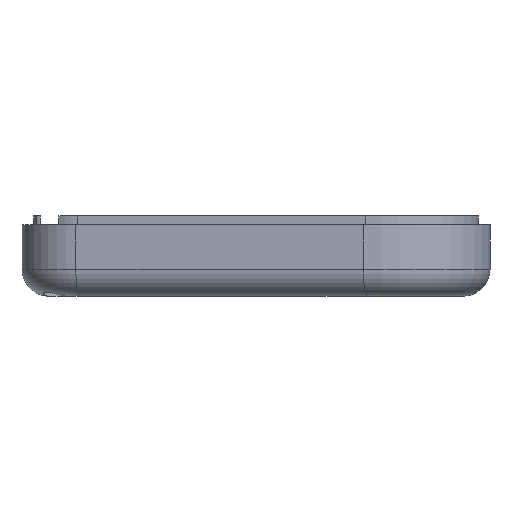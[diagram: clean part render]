
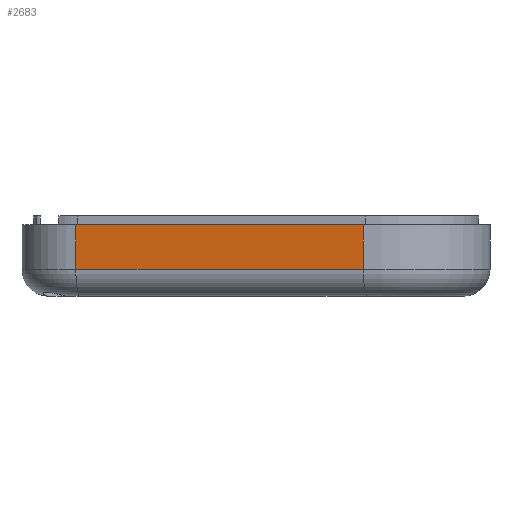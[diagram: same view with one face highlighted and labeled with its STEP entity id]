
A CAD part, left-side view. The second image highlights one B-rep face of the part: STEP entity #2683.
In plain terms, the highlighted planar face has unit normal (-0.991, 0.137, 0).
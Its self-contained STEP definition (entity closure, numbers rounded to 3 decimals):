
#165 = VERTEX_POINT('',#166);
#166 = CARTESIAN_POINT('',(-71.869,31.913,6.));
#173 = EDGE_CURVE('',#165,#174,#176,.T.);
#174 = VERTEX_POINT('',#175);
#175 = CARTESIAN_POINT('',(-71.869,31.913,16.));
#176 = LINE('',#177,#178);
#177 = CARTESIAN_POINT('',(-71.869,31.913,0.));
#178 = VECTOR('',#179,1.);
#179 = DIRECTION('',(0.,0.,1.));
#232 = EDGE_CURVE('',#233,#174,#235,.T.);
#233 = VERTEX_POINT('',#234);
#234 = CARTESIAN_POINT('',(-80.765,-32.584,16.));
#235 = LINE('',#236,#237);
#236 = CARTESIAN_POINT('',(-93.21,-122.799,16.));
#237 = VECTOR('',#238,1.);
#238 = DIRECTION('',(0.137,0.991,-0.));
#2683 = ADVANCED_FACE('',(#2684),#2702,.T.);
#2684 = FACE_BOUND('',#2685,.T.);
#2685 = EDGE_LOOP('',(#2686,#2694,#2700,#2701));
#2686 = ORIENTED_EDGE('',*,*,#2687,.F.);
#2687 = EDGE_CURVE('',#2688,#165,#2690,.T.);
#2688 = VERTEX_POINT('',#2689);
#2689 = CARTESIAN_POINT('',(-80.765,-32.584,6.));
#2690 = LINE('',#2691,#2692);
#2691 = CARTESIAN_POINT('',(-80.765,-32.584,6.));
#2692 = VECTOR('',#2693,1.);
#2693 = DIRECTION('',(0.137,0.991,0.));
#2694 = ORIENTED_EDGE('',*,*,#2695,.T.);
#2695 = EDGE_CURVE('',#2688,#233,#2696,.T.);
#2696 = LINE('',#2697,#2698);
#2697 = CARTESIAN_POINT('',(-80.765,-32.584,0.));
#2698 = VECTOR('',#2699,1.);
#2699 = DIRECTION('',(0.,0.,1.));
#2700 = ORIENTED_EDGE('',*,*,#232,.T.);
#2701 = ORIENTED_EDGE('',*,*,#173,.F.);
#2702 = PLANE('',#2703);
#2703 = AXIS2_PLACEMENT_3D('',#2704,#2705,#2706);
#2704 = CARTESIAN_POINT('',(-80.765,-32.584,0.));
#2705 = DIRECTION('',(-0.991,0.137,0.));
#2706 = DIRECTION('',(0.137,0.991,0.));
